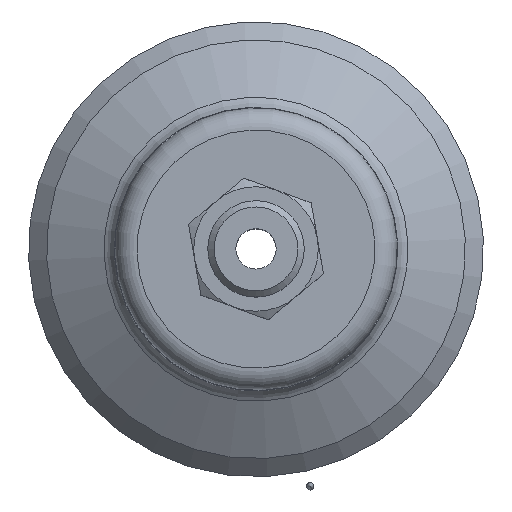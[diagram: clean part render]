
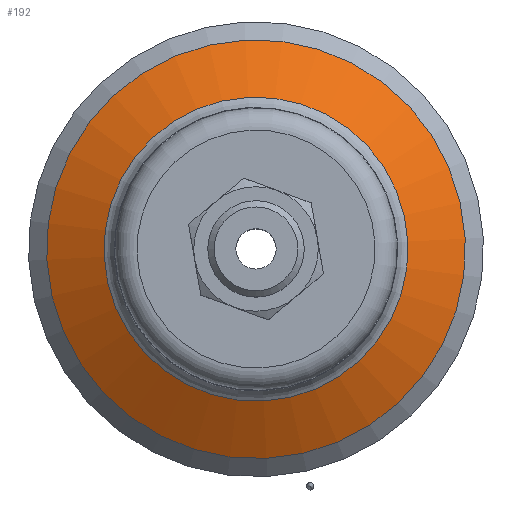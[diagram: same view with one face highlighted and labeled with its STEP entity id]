
A CAD part, top view. The second image highlights one B-rep face of the part: STEP entity #192.
In plain terms, the highlighted conical face has half-angle 60 degrees and reference radius 24.668 mm.
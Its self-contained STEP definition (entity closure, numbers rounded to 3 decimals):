
#192=ADVANCED_FACE('',(#385,#386),#387,.T.);
#385=FACE_BOUND('',#600,.T.);
#386=FACE_OUTER_BOUND('',#601,.T.);
#387=CONICAL_SURFACE('',#602,24.668,1.047);
#600=EDGE_LOOP('',(#929));
#601=EDGE_LOOP('',(#930));
#602=AXIS2_PLACEMENT_3D('',#931,#932,#933);
#929=ORIENTED_EDGE('',*,*,#1161,.T.);
#930=ORIENTED_EDGE('',*,*,#1162,.F.);
#931=CARTESIAN_POINT('',(0.0,0.,5.798));
#932=DIRECTION('',(0.0,0.,-1.0));
#933=DIRECTION('',(1.0,0.0,0.0));
#1161=EDGE_CURVE('',#1333,#1333,#1334,.T.);
#1162=EDGE_CURVE('',#1335,#1335,#1336,.T.);
#1333=VERTEX_POINT('',#1812);
#1334=CIRCLE('',#1813,20.75);
#1335=VERTEX_POINT('',#1814);
#1336=CIRCLE('',#1815,28.585);
#1812=CARTESIAN_POINT('',(0.0,20.75,8.06));
#1813=AXIS2_PLACEMENT_3D('',#1990,#1991,#1992);
#1814=CARTESIAN_POINT('',(28.585,0.,3.536));
#1815=AXIS2_PLACEMENT_3D('',#1993,#1994,#1995);
#1990=CARTESIAN_POINT('',(0.0,0.,8.06));
#1991=DIRECTION('',(0.0,0.,-1.0));
#1992=DIRECTION('',(0.0,1.0,0.));
#1993=CARTESIAN_POINT('',(0.0,0.,3.536));
#1994=DIRECTION('',(0.0,0.,-1.0));
#1995=DIRECTION('',(1.0,0.0,0.0));
